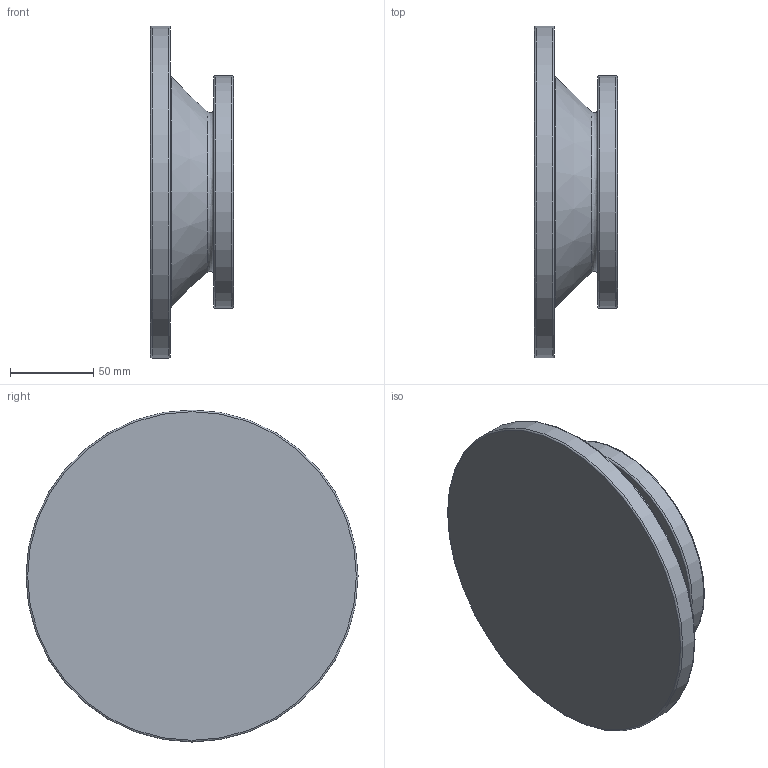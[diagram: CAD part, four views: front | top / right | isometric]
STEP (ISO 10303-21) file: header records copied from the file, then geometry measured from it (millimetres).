
FILE_DESCRIPTION((''),'2;1');
FILE_NAME('D:\PAWEŁ\ZLECENIA\2011 DualSystem\Przekładnie DR\DR70\STEP\63_B5_L50.stp','2012-06-11T12:13:07',('admin'),(''),'Autodesk Inventor 2009','Autodesk Inventor 2009','');
FILE_SCHEMA(('AUTOMOTIVE_DESIGN { 1 0 10303 214 1 1 1 1 }'));
Length unit declared in the file: millimetre
Products named in the file (1): 63_B5_L50
Bounding box: 50 x 200 x 200 mm (x, y, z)
Volume: 571290.6 mm3; surface area: 119508 mm2
Topology: 1 solids, 1 shells, 30 faces, 58 edges, 36 vertices
Faces by surface type: plane 11, cylinder 6, bspline 6, torus 5, cone 2
Full cylindrical faces by diameter (mm): 23 x1, 82 x1, 90 x1, 140 x1, 200 x1
Entity records: 895 total; most frequent: CARTESIAN_POINT 281, DIRECTION 120, ORIENTED_EDGE 80, EDGE_LOOP 62, AXIS2_PLACEMENT_3D 55, EDGE_CURVE 40, VERTEX_POINT 36, FACE_BOUND 32
